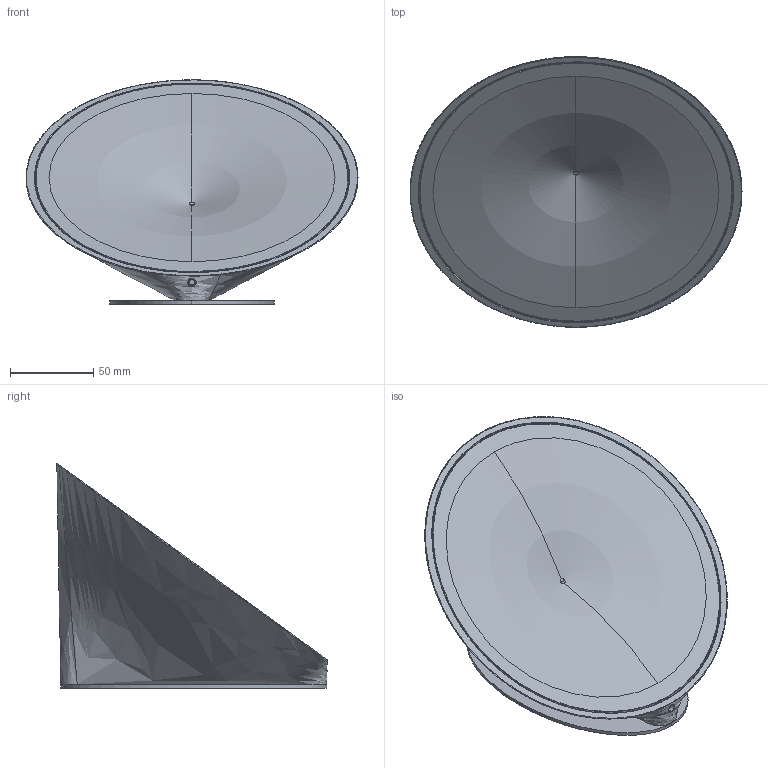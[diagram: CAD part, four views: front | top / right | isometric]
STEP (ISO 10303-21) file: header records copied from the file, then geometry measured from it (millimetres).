
FILE_DESCRIPTION (( 'STEP AP203' ), '1' );
FILE_NAME ('UAORCHIDXXXXXLED-PER 3D.STEP', '2026-07-07T16:12:30', ( '' ), ( '' ), 'SwSTEP 2.0', 'SolidWorks 2026', '' );
FILE_SCHEMA (( 'CONFIG_CONTROL_DESIGN' ));
Length unit declared in the file: millimetre
Products named in the file (4): Orchid backplate oval; UAORCHIDXXXXXLED-PER 3D; ORCHID-02; ORCHID-01
Assembly tree (3 placements, depth 2):
  UAORCHIDXXXXXLED-PER 3D
    ORCHID-02
    ORCHID-01
    Orchid backplate oval
Bounding box: 199.59 x 162.51 x 134.88 mm (x, y, z)
Volume: 386936.2 mm3; surface area: 172917.6 mm2
Topology: 3 solids, 3 shells, 244 faces, 582 edges, 338 vertices
Faces by surface type: cylinder 82, bspline 50, cone 40, plane 35, torus 22, sphere 15
Entity records: 15202 total; most frequent: CARTESIAN_POINT 9559, ORIENTED_EDGE 1116, DIRECTION 1074, EDGE_CURVE 558, AXIS2_PLACEMENT_3D 444, VERTEX_POINT 336, EDGE_LOOP 280, CIRCLE 244
